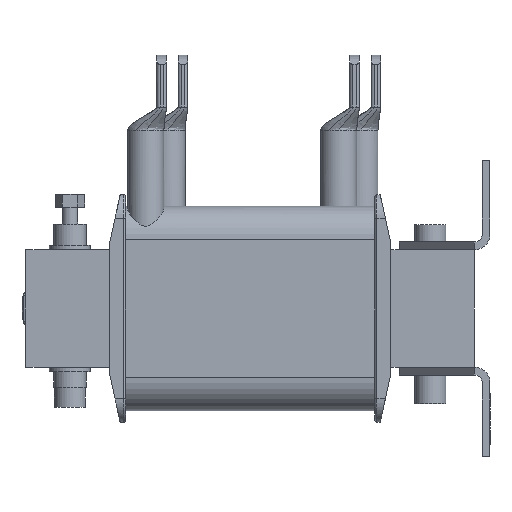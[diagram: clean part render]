
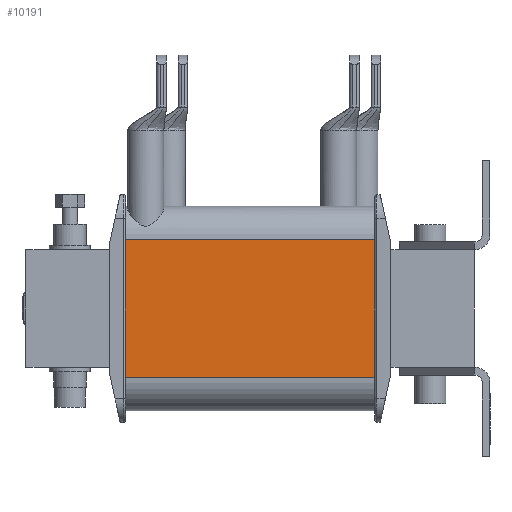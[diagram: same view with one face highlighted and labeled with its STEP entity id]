
A CAD part, left-side view. The second image highlights one B-rep face of the part: STEP entity #10191.
In plain terms, the highlighted planar face has unit normal (-1, 0, 0).
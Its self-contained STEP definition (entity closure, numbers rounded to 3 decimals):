
#1232 = DIRECTION ( 'NONE',  ( 0., 0., 1. ) ) ;
#1307 = CARTESIAN_POINT ( 'NONE',  ( -100.5, 44.45, -26.5 ) ) ;
#2341 = VECTOR ( 'NONE', #4946, 1000. ) ;
#2681 = VERTEX_POINT ( 'NONE', #10794 ) ;
#2761 = EDGE_CURVE ( 'NONE', #13881, #14021, #11341, .T. ) ;
#2911 = LINE ( 'NONE', #5378, #10969 ) ;
#3512 = EDGE_CURVE ( 'NONE', #2681, #10608, #2911, .T. ) ;
#3588 = ORIENTED_EDGE ( 'NONE', *, *, #2761, .F. ) ;
#4672 = CARTESIAN_POINT ( 'NONE',  ( -100.5, 243.053, -26.5 ) ) ;
#4946 = DIRECTION ( 'NONE',  ( 0., 0., 1. ) ) ;
#5378 = CARTESIAN_POINT ( 'NONE',  ( -100.5, 243.053, -26.5 ) ) ;
#5465 = EDGE_CURVE ( 'NONE', #2681, #13881, #13398, .T. ) ;
#6217 = ORIENTED_EDGE ( 'NONE', *, *, #13494, .T. ) ;
#6402 = EDGE_LOOP ( 'NONE', ( #10999, #8969, #6217, #3588 ) ) ;
#7168 = CARTESIAN_POINT ( 'NONE',  ( -100.5, 44.45, -26.5 ) ) ;
#7680 = CARTESIAN_POINT ( 'NONE',  ( -100.5, 243.053, 26.5 ) ) ;
#8429 = PLANE ( 'NONE',  #10563 ) ;
#8969 = ORIENTED_EDGE ( 'NONE', *, *, #3512, .T. ) ;
#9440 = DIRECTION ( 'NONE',  ( 1., 0., 0. ) ) ;
#9491 = CARTESIAN_POINT ( 'NONE',  ( -100.5, 140.75, 26.5 ) ) ;
#9874 = CARTESIAN_POINT ( 'NONE',  ( -100.5, 140.75, -26.5 ) ) ;
#10191 = ADVANCED_FACE ( 'NONE', ( #14351 ), #8429, .F. ) ;
#10458 = VECTOR ( 'NONE', #12437, 1000. ) ;
#10563 = AXIS2_PLACEMENT_3D ( 'NONE', #4672, #9440, #12159 ) ;
#10608 = VERTEX_POINT ( 'NONE', #7168 ) ;
#10612 = LINE ( 'NONE', #1307, #12013 ) ;
#10794 = CARTESIAN_POINT ( 'NONE',  ( -100.5, 140.75, -26.5 ) ) ;
#10969 = VECTOR ( 'NONE', #12237, 1000. ) ;
#10999 = ORIENTED_EDGE ( 'NONE', *, *, #5465, .F. ) ;
#11341 = LINE ( 'NONE', #7680, #10458 ) ;
#12013 = VECTOR ( 'NONE', #1232, 1000. ) ;
#12159 = DIRECTION ( 'NONE',  ( 0., 0., -1. ) ) ;
#12237 = DIRECTION ( 'NONE',  ( 0., -1., 0. ) ) ;
#12437 = DIRECTION ( 'NONE',  ( 0., -1., 0. ) ) ;
#13063 = CARTESIAN_POINT ( 'NONE',  ( -100.5, 44.45, 26.5 ) ) ;
#13398 = LINE ( 'NONE', #9874, #2341 ) ;
#13494 = EDGE_CURVE ( 'NONE', #10608, #14021, #10612, .T. ) ;
#13881 = VERTEX_POINT ( 'NONE', #9491 ) ;
#14021 = VERTEX_POINT ( 'NONE', #13063 ) ;
#14351 = FACE_OUTER_BOUND ( 'NONE', #6402, .T. ) ;
